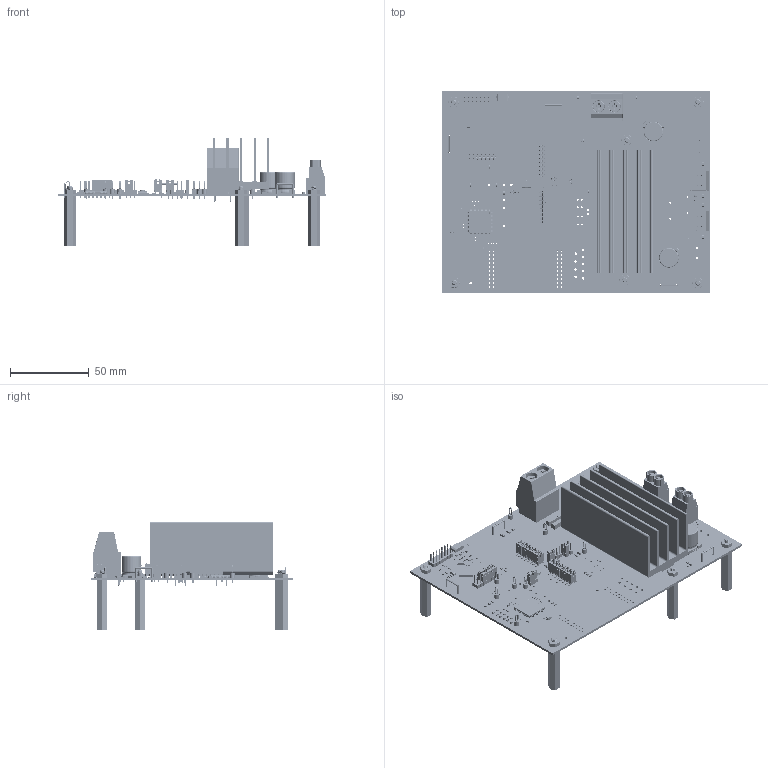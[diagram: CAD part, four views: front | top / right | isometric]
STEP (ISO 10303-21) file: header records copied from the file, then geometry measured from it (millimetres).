
FILE_DESCRIPTION(('Open CASCADE Model'),'2;1');
FILE_NAME('Open CASCADE Shape Model','2023-06-22T15:46:23',('Author'),( 'Open CASCADE'),'Open CASCADE STEP processor 7.5','Open CASCADE 7.5' ,'Unknown');
FILE_SCHEMA(('AUTOMOTIVE_DESIGN { 1 0 10303 214 1 1 1 1 }'));
Length unit declared in the file: millimetre
Products named in the file (503): PCB; Board; Open CASCADE STEP translator 7.5 1.1.1; J3; 6404107392; Cylinder; 6404107152; Sphere; 6404106832; J14; Conn_691250610002_CONN_TERM_BLOCK2; Download_STP_691250610002 (rev1); 2; 3; 4; 5; 6; MRT20P6.35_CNT; MRT20P6.35_DX; MRT20P6.35_SX; Wurth Elektonik Logo 1; J13; TP36; Keystone_5010; Keystone_multipurpose_wire; Keystone5005_red; MP1; UNK_ATS-TI10P-519-C1-R3_HEAT_SINK; ATS-TI10P-519-C1-R3; Advanced Thermal Solutions Logo; D12; 6404109872; Extruded; 6404110432; 6404110272; D11; 6404109232; D10; A3; Keystone_5012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
Assembly tree (920 placements, depth 5):
  PCB
    Board
      Open CASCADE STEP translator 7.5 1.1.1
    J3
      6404107392
        Cylinder
      6404107152  x2
        Sphere
      6404106832  x2
        Cylinder
    J14
      Conn_691250610002_CONN_TERM_BLOCK2
        Download_STP_691250610002 (rev1)
          2
          3  x2
          4
          5
          6
          MRT20P6.35_CNT
          MRT20P6.35_DX
          MRT20P6.35_SX
          Wurth Elektonik Logo 1
    J13
      Conn_691250610002_CONN_TERM_BLOCK2
        Download_STP_691250610002 (rev1)
          2
          3  x2
          4
          5
          6
          MRT20P6.35_CNT
          MRT20P6.35_DX
          MRT20P6.35_SX
          Wurth Elektonik Logo 1
    TP36
      Keystone_5010
        Keystone_multipurpose_wire
        Keystone5005_red
    MP1
      UNK_ATS-TI10P-519-C1-R3_HEAT_SINK
        ATS-TI10P-519-C1-R3
        Advanced Thermal Solutions Logo
    D12
      6404109872
        Extruded
      6404110432  x2
        Extruded
      6404110272
        Extruded
    D11
      6404110432  x2
        Extruded
      6404110272
        Extruded
      6404109232
        Extruded
    D10
      6404110432  x2
        Extruded
      6404110272
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Bounding box: 170.43 x 128.52 x 68.94 mm (x, y, z)
Volume: 91717.1 mm3; surface area: 112914.8 mm2
Topology: 1416 solids, 1416 shells, 26030 faces, 66636 edges, 43603 vertices
Faces by surface type: plane 19474, cylinder 3443, bspline 2657, sphere 266, torus 110, cone 80
Full cylindrical faces by diameter (mm): 0.017 x1, 0.15 x5, 0.191 x1, 0.45 x20, 1.016 x20, 1.02 x40, 1.05 x9, 1.1 x28, 1.15 x3, 1.3 x10, 1.5 x6, 1.6 x29, 3 x3, 3.15 x1, 3.2 x9, 4.701 x1, 7.4 x6, 11.458 x2, 12.5 x4
Entity records: 362211 total; most frequent: CARTESIAN_POINT 71460, ORIENTED_EDGE 51716, DIRECTION 47074, EDGE_CURVE 25858, LINE 20582, VECTOR 20582, VERTEX_POINT 17060, AXIS2_PLACEMENT_3D 13246
